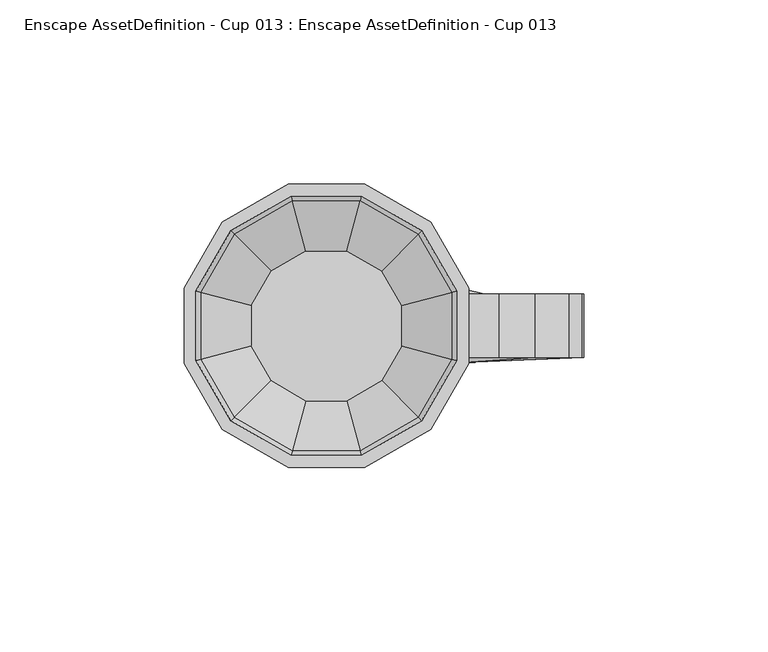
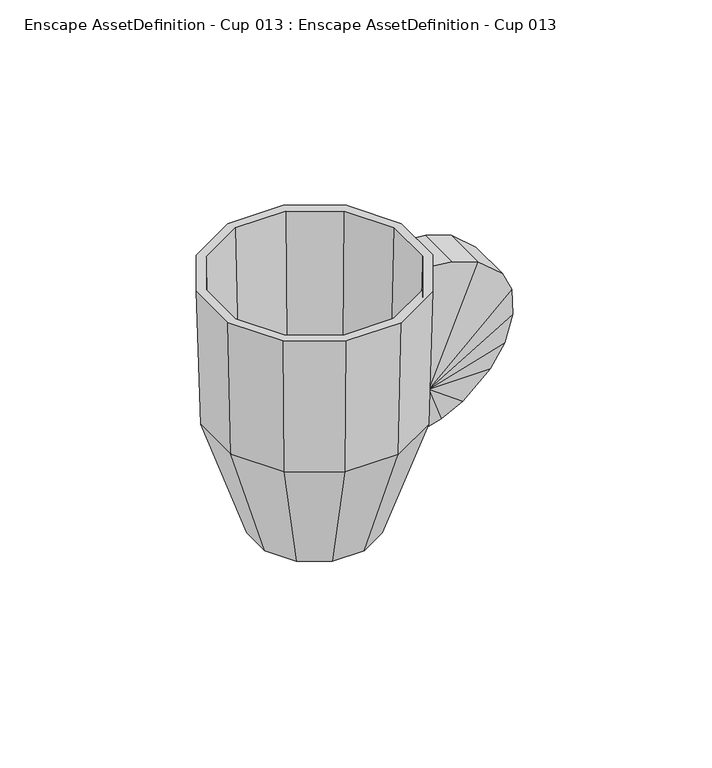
"""IFC4 building model written with IfcOpenShell, lengths in millimetres: geographic element geometry, Enscape AssetDefinition - Cup 013 : Enscape AssetDefinition - Cup 013."""

import ifcopenshell
import ifcopenshell.guid

model = None  # the IFC model being written
_history = None  # IfcOwnerHistory: only IFC2X3 demands one
_inside = {}  # id of a spatial element -> (the spatial element, [elements in it])
_under = {}  # id of a project, library or spatial element -> (it, [spatial elements below it])
_declared = {}  # id of a project -> (the project, [libraries it declares])
_typed = {}  # id of a type object -> (the type object, [elements of that type])
_made_of = {}  # id of a material, layer set ... -> (it, [elements and type objects made of it])


def new_model(schema):
    """Start an empty IFC model of exactly this schema.

    Asked for "IFC4X3", IfcOpenShell would pick the latest addendum, in which some entities
    have other attributes; the version numbers below select the first issue.
    IFC2X3 requires an IfcOwnerHistory on every rooted entity: one is made here for all.
    """
    global model, _history
    if schema == "IFC4X3":
        model = ifcopenshell.file(schema_version=(4, 3, 0, 0))
    else:
        model = ifcopenshell.file(schema=schema)
    _inside.clear()
    _under.clear()
    _declared.clear()
    _typed.clear()
    _made_of.clear()
    _history = None
    if model.schema == "IFC2X3":
        org = make("IfcOrganization", Name="unknown")
        user = make(
            "IfcPersonAndOrganization",
            ThePerson=make("IfcPerson", FamilyName="unknown"),
            TheOrganization=org,
        )
        app = make(
            "IfcApplication",
            ApplicationDeveloper=org,
            Version="unknown",
            ApplicationFullName="unknown",
            ApplicationIdentifier="unknown",
        )
        _history = make(
            "IfcOwnerHistory",
            OwningUser=user,
            OwningApplication=app,
            ChangeAction="ADDED",
            CreationDate=0,
        )
    return model


def make(cls, **values):
    """One entity of the class cls with the attributes given. An attribute that is None is left unset."""
    return model.create_entity(
        cls, **{name: value for name, value in values.items() if value is not None}
    )


def rooted(cls, **values):
    """An entity with a GlobalId (a new one), such as an element, a storey or a relation."""
    return make(cls, GlobalId=ifcopenshell.guid.new(), OwnerHistory=_history, **values)


def si_unit(unit_type, name, prefix=None):
    """IfcSIUnit, for example si_unit("LENGTHUNIT", "METRE", prefix="MILLI")."""
    return make("IfcSIUnit", UnitType=unit_type, Prefix=prefix, Name=name)


def assignment(units):
    """IfcUnitAssignment: the units of a project."""
    return None if units is None else make("IfcUnitAssignment", Units=units)


def point(xyz):
    """IfcCartesianPoint."""
    return None if xyz is None else make("IfcCartesianPoint", Coordinates=xyz)


def direction(xyz):
    """IfcDirection."""
    return None if xyz is None else make("IfcDirection", DirectionRatios=xyz)


def frame(location, z_axis=None, x_axis=None):
    """IfcAxis2Placement3D, a coordinate frame: its origin and axes. An axis left out is left unset."""
    return make(
        "IfcAxis2Placement3D",
        Location=point(location),
        Axis=direction(z_axis),
        RefDirection=direction(x_axis),
    )


def origin():
    """The frame at (0, 0, 0) with its axes left unset."""
    return frame((0.0, 0.0, 0.0))


def place(relative_to, where):
    """IfcLocalPlacement: puts the frame where relative to a parent placement (None: the world)."""
    return make(
        "IfcLocalPlacement", PlacementRelTo=relative_to, RelativePlacement=where
    )


def context(
    kind, dimensions, precision=None, world=None, true_north=None, identifier=None
):
    """IfcGeometricRepresentationContext, for example the 3D "Model" context."""
    return make(
        "IfcGeometricRepresentationContext",
        ContextIdentifier=identifier,
        ContextType=kind,
        CoordinateSpaceDimension=dimensions,
        Precision=precision,
        WorldCoordinateSystem=world,
        TrueNorth=true_north,
    )


def project(units=None, contexts=None):
    """IfcProject with its units and contexts."""
    return rooted(
        "IfcProject",
        Name="project",
        RepresentationContexts=contexts,
        UnitsInContext=assignment(units),
    )


def spatial(cls, under=None, at=None, **own):
    """A site, building, storey or space (cls), placed at a placement, below another one or the project."""
    s = rooted(cls, ObjectPlacement=at, **own)
    if under is not None:
        _under.setdefault(under.id(), (under, []))[1].append(s)
    return s


def point_list(points):
    """IfcCartesianPointList2D or 3D."""
    cls = (
        "IfcCartesianPointList2D" if len(points[0]) == 2 else "IfcCartesianPointList3D"
    )
    return make(cls, CoordList=points)


def triangles(points, corners, closed=None, point_numbers=None):
    """IfcTriangulatedFaceSet: each triangle names its three corners, points numbered from 1."""
    return make(
        "IfcTriangulatedFaceSet",
        Coordinates=point_list(points),
        Closed=closed,
        CoordIndex=corners,
        PnIndex=point_numbers,
    )


def shape(context_of_items, identifier, shape_type, items):
    """IfcShapeRepresentation: the items that make up one representation, for example the "Body"."""
    return make(
        "IfcShapeRepresentation",
        ContextOfItems=context_of_items,
        RepresentationIdentifier=identifier,
        RepresentationType=shape_type,
        Items=items,
    )


def source(mapping_origin, context_of_items, identifier, shape_type, items):
    """IfcRepresentationMap: a shape defined once, which mapped items show again and again."""
    return make(
        "IfcRepresentationMap",
        MappingOrigin=mapping_origin,
        MappedRepresentation=shape(context_of_items, identifier, shape_type, items),
    )


def transform(
    local_origin,
    x_axis=None,
    y_axis=None,
    z_axis=None,
    scale=None,
    scale2=None,
    scale3=None,
    uniform=True,
):
    """IfcCartesianTransformationOperator3D, or its non-uniform kind. x_axis, y_axis, z_axis: its Axis1, 2, 3."""
    if uniform:
        return make(
            "IfcCartesianTransformationOperator3D",
            Axis1=direction(x_axis),
            Axis2=direction(y_axis),
            LocalOrigin=point(local_origin),
            Scale=scale,
            Axis3=direction(z_axis),
        )
    return make(
        "IfcCartesianTransformationOperator3DnonUniform",
        Axis1=direction(x_axis),
        Axis2=direction(y_axis),
        LocalOrigin=point(local_origin),
        Scale=scale,
        Axis3=direction(z_axis),
        Scale2=scale2,
        Scale3=scale3,
    )


def mapped(mapping_source, mapping_target):
    """IfcMappedItem: shows the shape of a source again, moved by a transform."""
    return make(
        "IfcMappedItem", MappingSource=mapping_source, MappingTarget=mapping_target
    )


def made_of(thing, what):
    """Note that an element or type object is made of a material, layer set ...; save() writes the relation."""
    if what is not None:
        _made_of.setdefault(what.id(), (what, []))[1].append(thing)
    return thing


def element(
    cls,
    number,
    at=None,
    inside=None,
    cuts=None,
    type_object=None,
    material=None,
    context=None,
    identifier="Body",
    shape_type=None,
    held_by="IfcProductDefinitionShape",
    body=None,
    shapes=None,
    **own,
):
    """One element of the class cls, such as IfcWall. Its Tag is "e" and its number.

    at: its placement. inside: the storey or other place that contains it. cuts: it is an
    opening in that element (IfcRelVoidsElement). A single representation is given by context,
    identifier, shape_type and body (its items); several are given by shapes. held_by: the class
    of the entity that holds the representations. save() writes the other relations.
    """
    e = rooted(cls, Tag="e%d" % number, ObjectPlacement=at, **own)
    if body is not None:
        shapes = [shape(context, identifier, shape_type, body)]
    if shapes is not None:
        e.Representation = make(held_by, Representations=shapes)
    if inside is not None:
        _inside.setdefault(inside.id(), (inside, []))[1].append(e)
    if cuts is not None:
        rooted(
            "IfcRelVoidsElement", RelatingBuildingElement=cuts, RelatedOpeningElement=e
        )
    if type_object is not None:
        _typed.setdefault(type_object.id(), (type_object, []))[1].append(e)
    return made_of(e, material)


def aggregate(whole, parts):
    """IfcRelAggregates: a whole, such as a stair, and the parts it consists of."""
    return rooted("IfcRelAggregates", RelatingObject=whole, RelatedObjects=parts)


def save(model, path):
    """Write the relations noted so far, then the file.

    IfcRelAggregates (storeys below a building ...), IfcRelContainedInSpatialStructure (elements
    in a storey), IfcRelDefinesByType, IfcRelAssociatesMaterial and IfcRelDeclares: one each for
    every whole, place, type object, material and project.
    """
    for whole, parts in _under.values():
        aggregate(whole, parts)
    for where, things in _inside.values():
        rooted(
            "IfcRelContainedInSpatialStructure",
            RelatedElements=things,
            RelatingStructure=where,
        )
    for kind, things in _typed.values():
        rooted("IfcRelDefinesByType", RelatedObjects=things, RelatingType=kind)
    for what, things in _made_of.values():
        rooted("IfcRelAssociatesMaterial", RelatedObjects=things, RelatingMaterial=what)
    for by, libraries in _declared.values():
        rooted("IfcRelDeclares", RelatingContext=by, RelatedDefinitions=libraries)
    model.write(path)


def enscape_assetdefinition_cup_013_enscape_assetdefinition_cup_4f71ced8(model_context):
    return source(origin(), model_context, "Body", "Tessellation", [
        triangles([(50.8290014, 8.5950002, 35.5780019), (42.785002, -8.5950002, 31.513002), (61.2750026, 8.5950002, 44.8790012), (50.8290014, -8.5950002, 35.5780019), (42.785002, 8.5950002, 31.513002), (61.2750026, -8.5950002, 44.8790012), (31.3210011, -8.3640005, 28.0859991), (22.1270015, 5.9000004, 0.0), (22.1270015, -5.9000004, 0.0), (16.225999, -16.121, 0.0), (10.0490005, -37.1100009, 46.0929987), (6.005, -22.0220002, 0.0), (-10.0490005, -37.1100009, 46.0929987), (10.41, -38.4600026, 99.263), (-27.2710007, -27.1659994, 46.0929987), (-6.005, -22.0220002, 0.0), (-28.2600006, -28.1550016, 99.263), (28.2600006, -28.1550016, 99.263), (38.5660008, -10.3049999, 99.263), (9.4919999, -35.2639994, 99.263), (-9.6010003, -35.2639994, 99.263), (9.2, -33.9439991, 48.5789979), (-10.41, -38.4600026, 99.263), (-9.2, -33.9439991, 48.5789979), (-25.9669992, -25.8150009, 99.263), (-24.9540001, -24.8489988, 48.5789979), (-35.416, -9.4489997, 99.263), (-14.988, -14.8829999, 6.5750001), (-35.416, 9.4489997, 99.263), (-38.5660008, 10.3049999, 99.263), (-38.5660008, -10.3049999, 99.263), (-34.0499997, 9.0950004, 48.5789979), (-25.9669992, 25.8150009, 99.263), (-37.2149977, 9.9440004, 46.0929987), (-28.2600006, 28.1550016, 99.263), (-22.1270015, 5.9000004, 0.0), (-27.2710007, 27.1659994, 46.0929987), (-37.2149977, -9.9440004, 46.0929987), (-22.1270015, -5.9000004, 0.0), (-16.225999, -16.121, 0.0), (16.225999, 16.121, 0.0), (31.3210011, 8.3640005, 28.0859991), (-6.005, 22.0220002, 0.0), (-16.225999, 16.121, 0.0), (6.005, 22.0220002, 0.0), (10.0490005, 37.1100009, 46.0929987), (-10.0490005, 37.1100009, 46.0929987), (10.41, 38.4600026, 99.263), (27.2710007, 27.1659994, 46.0929987), (28.2600006, 28.1550016, 99.263), (37.2149977, 9.9440004, 46.0929987), (35.3070019, -9.4489997, 99.263), (38.5660008, 10.3049999, 99.263), (38.4190031, 8.5950002, 93.4770068), (46.8549979, -8.5950002, 92.6909992), (37.2149977, -9.9440004, 46.0929987), (38.4190031, -8.5950002, 93.4770068), (25.8590003, -25.8150009, 99.263), (27.2710007, -27.1659994, 46.0929987), (24.9540001, -24.8489988, 48.5789979), (34.0499997, -9.0950004, 48.5789979), (5.5530001, -20.3310015, 6.5750001), (20.4360005, -5.4479999, 6.5750001), (14.988, -14.8829999, 6.5750001), (-5.5530001, -20.3310015, 6.5750001), (34.0499997, 9.0950004, 48.5789979), (24.9540001, 24.8489988, 48.5789979), (35.3070019, 9.4489997, 99.263), (25.8590003, 25.8150009, 99.263), (20.4360005, 5.4479999, 6.5750001), (14.988, 14.8829999, 6.5750001), (9.4919999, 35.2639994, 99.263), (-10.41, 38.4600026, 99.263), (-9.6010003, 35.2639994, 99.263), (-24.9540001, 24.8489988, 48.5789979), (-20.4360005, 5.4479999, 6.5750001), (-14.988, 14.8829999, 6.5750001), (-9.2, 33.9439991, 48.5789979), (-20.4360005, -5.4479999, 6.5750001), (-34.0499997, -9.0950004, 48.5789979), (5.5530001, 20.3310015, 6.5750001), (-5.5530001, 20.3310015, 6.5750001), (9.2, 33.9439991, 48.5789979), (69.8219963, -8.5950002, 63.6719993), (69.2949981, -8.5950002, 73.7250012), (56.5580031, -8.5950002, 89.300999), (66.6880034, -8.5950002, 53.3530025), (69.8219963, 8.5950002, 63.6719993), (66.6880034, 8.5950002, 53.3530025), (65.7019989, 8.5950002, 81.3739938), (65.7019989, -8.5950002, 81.3739938), (56.5580031, 8.5950002, 89.300999), (46.8549979, 8.5950002, 92.6909992), (69.2949981, 8.5950002, 73.7250012)], [[93, 89, 3], [93, 88, 89], [93, 94, 88], [93, 90, 94], [93, 92, 90], [93, 86, 92], [93, 55, 86], [92, 91, 90], [92, 86, 91], [90, 85, 94], [90, 91, 85], [94, 84, 88], [94, 85, 84], [88, 87, 89], [88, 84, 87], [89, 6, 3], [89, 87, 6], [56, 86, 55], [56, 91, 86], [56, 85, 91], [56, 84, 85], [56, 87, 84], [56, 6, 87], [83, 81, 71], [82, 81, 83], [65, 81, 82], [65, 71, 81], [79, 28, 65], [80, 28, 79], [32, 80, 79], [32, 79, 76], [65, 76, 79], [65, 77, 76], [65, 82, 77], [82, 83, 78], [78, 77, 82], [75, 76, 77], [75, 32, 76], [78, 75, 77], [32, 75, 33], [75, 74, 33], [75, 78, 74], [83, 74, 78], [33, 74, 73], [83, 72, 74], [72, 73, 74], [72, 48, 73], [69, 48, 72], [67, 72, 83], [67, 69, 72], [83, 71, 67], [67, 71, 70], [65, 70, 71], [66, 69, 67], [66, 68, 69], [67, 70, 66], [66, 70, 63], [65, 63, 70], [65, 64, 63], [65, 62, 64], [61, 68, 66], [61, 52, 68], [66, 63, 61], [61, 63, 64], [60, 52, 61], [60, 64, 62], [61, 64, 60], [60, 58, 52], [59, 56, 19], [58, 19, 52], [19, 56, 57], [55, 57, 56], [57, 55, 93], [5, 54, 93], [57, 93, 54], [19, 57, 53], [57, 54, 53], [52, 53, 68], [52, 19, 53], [68, 50, 69], [68, 53, 50], [69, 50, 48], [54, 51, 53], [51, 50, 53], [5, 51, 54], [5, 42, 51], [49, 51, 42], [51, 49, 50], [49, 48, 50], [46, 73, 48], [46, 47, 73], [49, 46, 48], [47, 46, 45], [47, 45, 43], [47, 43, 44], [41, 49, 42], [8, 41, 42], [46, 41, 45], [46, 49, 41], [43, 45, 41], [41, 44, 43], [38, 40, 15], [41, 40, 39], [38, 39, 40], [41, 36, 44], [41, 39, 36], [37, 73, 47], [37, 44, 36], [47, 44, 37], [37, 36, 34], [34, 39, 38], [34, 36, 39], [37, 35, 73], [34, 35, 37], [33, 73, 35], [80, 32, 29], [32, 33, 29], [29, 33, 35], [34, 30, 35], [38, 30, 34], [29, 35, 30], [15, 31, 38], [15, 17, 31], [38, 31, 30], [80, 29, 27], [27, 30, 31], [27, 29, 30], [26, 80, 27], [26, 65, 28], [80, 26, 28], [26, 27, 25], [25, 31, 17], [25, 27, 31], [24, 26, 25], [26, 24, 65], [22, 58, 60], [22, 65, 24], [22, 62, 65], [60, 62, 22], [24, 25, 21], [21, 25, 17], [21, 22, 24], [21, 17, 23], [23, 20, 21], [22, 20, 58], [21, 20, 22], [59, 19, 18], [20, 18, 58], [58, 18, 19], [23, 14, 20], [20, 14, 18], [13, 17, 15], [13, 23, 17], [13, 14, 23], [41, 16, 40], [15, 16, 13], [15, 40, 16], [11, 18, 14], [11, 59, 18], [13, 11, 14], [11, 13, 16], [41, 12, 16], [59, 11, 12], [11, 16, 12], [41, 10, 12], [59, 12, 10], [41, 9, 10], [41, 8, 9], [9, 8, 42], [10, 9, 7], [59, 10, 7], [7, 56, 59], [9, 42, 7], [56, 7, 2], [42, 2, 7], [42, 5, 2], [56, 4, 6], [56, 2, 4], [3, 6, 4], [93, 1, 5], [93, 3, 1], [3, 4, 1], [1, 2, 5], [1, 4, 2]]),
    ])


if __name__ == "__main__":
    model = new_model("IFC4")
    model_context = context("Model", 3, world=origin())
    ifc_project = project(units=[si_unit("LENGTHUNIT", "METRE", prefix="MILLI")], contexts=[model_context])
    site = spatial("IfcSite", under=ifc_project)
    building = spatial("IfcBuilding", under=site)
    placement = place(None, origin())
    enscape_assetdefinition_cup_013_enscape_assetdefinition_cup_shape = enscape_assetdefinition_cup_013_enscape_assetdefinition_cup_4f71ced8(model_context)
    element("IfcGeographicElement", 1, ObjectType="Enscape AssetDefinition - Cup 013 : Enscape AssetDefinition - Cup 013", at=placement, inside=building, context=model_context, shape_type="MappedRepresentation", body=[
        mapped(enscape_assetdefinition_cup_013_enscape_assetdefinition_cup_shape, transform((0.0, 0.0, 0.0), x_axis=(1.0, 0.0, 0.0), y_axis=(0.0, 1.0, 0.0), z_axis=(0.0, 0.0, 1.0))),
    ])
    save(model, "model.ifc")
